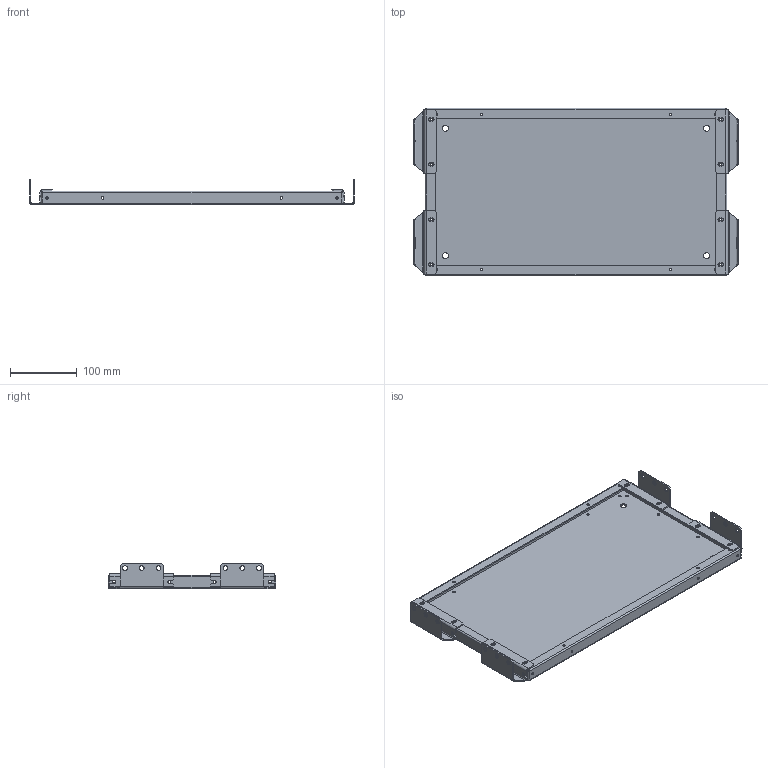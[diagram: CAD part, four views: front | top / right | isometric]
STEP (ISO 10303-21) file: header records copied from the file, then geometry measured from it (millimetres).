
FILE_DESCRIPTION (( 'STEP AP203' ), '1' );
FILE_NAME ('MP 45.25 M CÁ Ïàíåëü ìîíòàæíàÿ ñåêöèîííàÿ.STEP', '2013-01-09T13:26:14', ( 'System' ), ( '' ), 'SwSTEP 2.0', 'SolidWorks 2012', '' );
FILE_SCHEMA (( 'CONFIG_CONTROL_DESIGN' ));
Length unit declared in the file: millimetre
Products named in the file (1): MP 45.25 M CÁ Ïàíåëü ìîíòàæíàÿ ñåêöèîííàÿ
Bounding box: 485 x 250 x 37.75 mm (x, y, z)
Volume: 358675.3 mm3; surface area: 366377.6 mm2
Topology: 5 solids, 5 shells, 388 faces, 1016 edges, 632 vertices
Faces by surface type: cylinder 196, plane 168, bspline 16, sphere 8
Entity records: 12713 total; most frequent: CARTESIAN_POINT 2749, DIRECTION 2050, ORIENTED_EDGE 2016, EDGE_CURVE 1008, AXIS2_PLACEMENT_3D 733, VERTEX_POINT 632, LINE 584, VECTOR 584
